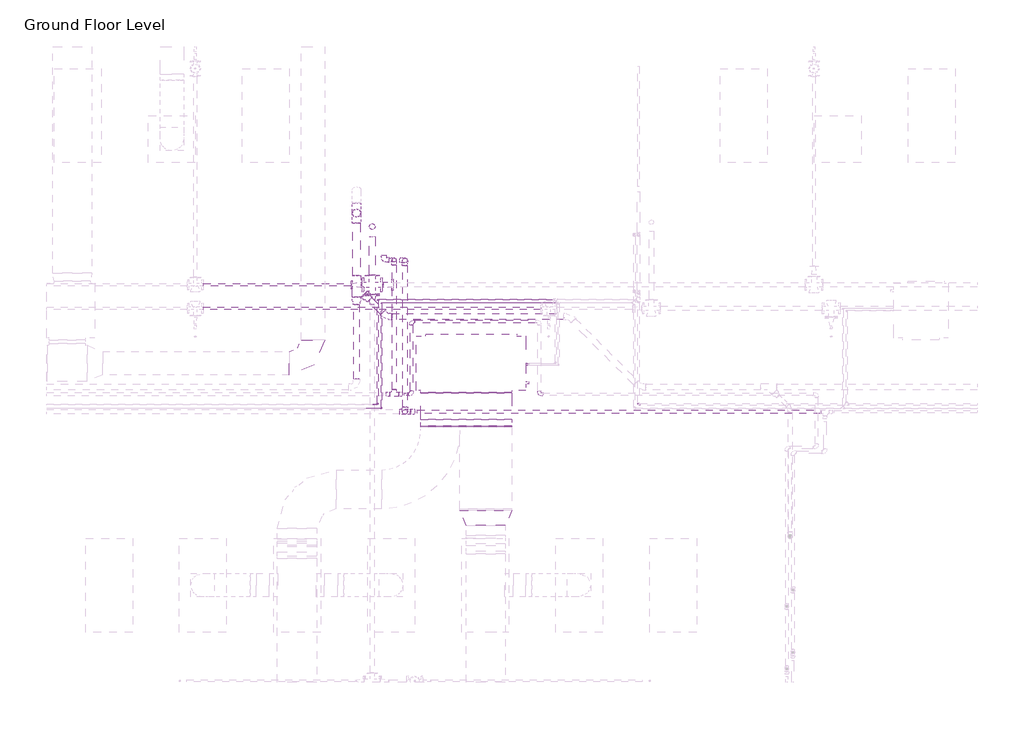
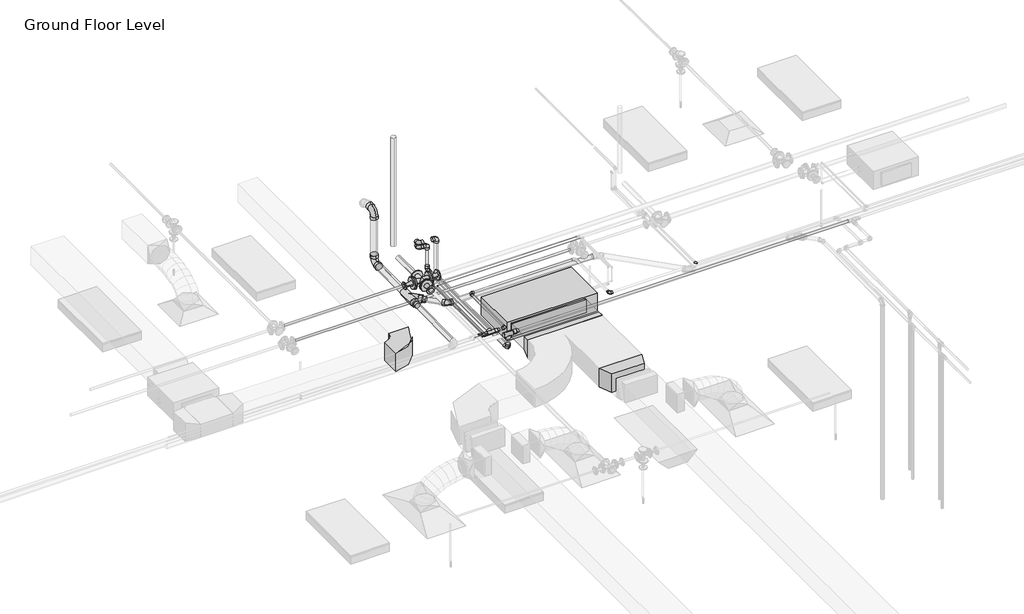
# One storey, part 52 of 73: 33 pipe fittings, 28 pipe segments, 4 duct fittings, 2 duct segments, 1 proxy.
"""IFC4 building model written with IfcOpenShell, lengths in millimetres."""

from ifc_helpers import new_model, si_unit, point, frame, frame_2d, origin, place, context, project, spatial, polyline, circle_curve, trimmed, segment, composite_curve, outline, extrude, transform, mapped, element, save
from components import fcu_daikin_iu_5a1bd61d, m_rectangular_elbow_radius_1_w_618da153, m_rectangular_transition_angle_45_degree_0ac038db, m_rectangular_transition_angle_45_degree_2e6f116c, m_rectangular_transition_angle_45_degree_bb273bf1, m_bend_pvc_sch_40_dwv_standard_bd716fa2, m_bend_pvc_sch_40_dwv_standard_fbb643c2, m_bend_pvc_sch_40_dwv_standard_bfb77a87, m_cross_flanged_cs_class_150_standard_72237f6b, m_elbow_generic_standard_a088f956, m_elbow_generic_standard_2a704253, m_elbow_generic_standard_73005802, m_elbow_generic_standard_65e6739a, m_reducer_flanged_cs_class_150_standard_50093ec8, m_reducer_flanged_cs_class_150_standard_fb6801e4, m_reducer_flanged_cs_class_150_standard_aac2962f, m_reducer_pvc_sch_40_dwv_standard_93e50943, m_tee_pvc_sch_40_standard_4c5b037c, standard_517a5a8d, standard_cd25fed3, standard_5079833c, standard_bbae78af, standard_a995ec02, standard_57727813, standard_77f9104c, standard_102e5625

model = new_model("IFC4")

# Units and contexts
model_context = context("Model", 3, world=origin())
ifc_project = project(units=[si_unit("LENGTHUNIT", "METRE", prefix="MILLI")], contexts=[model_context])

# Site, building, storey
site = spatial("IfcSite", under=ifc_project)
building = spatial("IfcBuilding", under=site)
storey = spatial("IfcBuildingStorey", under=building, Name="Ground Floor Level", Elevation=900.0)

# Proxy
placement = place(None, origin())
fcu_daikin_iu_shape = fcu_daikin_iu_5a1bd61d(model_context)
element("IfcBuildingElementProxy", 1, Name="FCU-DAIKIN IU : 12.9kW, 230V/50Hz/1Ph", ObjectType="FCU-DAIKIN IU : 12.9kW, 230V/50Hz/1Ph", at=placement, inside=storey, context=model_context, shape_type="MappedRepresentation", body=[
    mapped(fcu_daikin_iu_shape, transform((-4715.1910789, 14069.8153534, 3984.0925223), x_axis=(1.0, 0.0, 0.0), y_axis=(0.0, 1.0, 0.0), z_axis=(0.0, 0.0, 1.0))),
])

# Duct fittings
m_rectangular_elbow_radius_1_w_shape = m_rectangular_elbow_radius_1_w_618da153(model_context)
element("IfcDuctFitting", 2, ObjectType="M_Rectangular Elbow - Radius : 1 W", at=placement, inside=storey, context=model_context, shape_type="MappedRepresentation", body=[
    mapped(m_rectangular_elbow_radius_1_w_shape, transform((-6737.2327605, 14069.8153534, 4075.2872564), x_axis=(1.0, 0.0, 0.0), y_axis=(0.0, 1.0, 0.0), z_axis=(0.0, 0.0, 1.0))),
])
m_rectangular_transition_angle_45_degree_shape = m_rectangular_transition_angle_45_degree_0ac038db(model_context)
element("IfcDuctFitting", 3, ObjectType="M_Rectangular Transition - Angle : 45 Degree", at=placement, inside=storey, context=model_context, shape_type="MappedRepresentation", body=[
    mapped(m_rectangular_transition_angle_45_degree_shape, transform((-4528.6910789, 12192.414605, 4107.133239), x_axis=(0.0, -0.9999999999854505, 5.394345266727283e-06), y_axis=(1.0, 0.0, 0.0), z_axis=(0.0, 5.394345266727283e-06, 0.9999999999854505))),
])
m_rectangular_transition_angle_45_degree_2_shape = m_rectangular_transition_angle_45_degree_2e6f116c(model_context)
element("IfcDuctFitting", 4, ObjectType="M_Rectangular Transition - Angle : 45 Degree", at=placement, inside=storey, context=model_context, shape_type="MappedRepresentation", body=[
    mapped(m_rectangular_transition_angle_45_degree_2_shape, transform((-4778.6910789, 13694.4153534, 4150.0050223), x_axis=(0.0, -1.0, 0.0), y_axis=(1.0, 0.0, 0.0), z_axis=(0.0, 0.0, 1.0))),
])
m_rectangular_transition_angle_45_degree_3_shape = m_rectangular_transition_angle_45_degree_bb273bf1(model_context)
element("IfcDuctFitting", 5, ObjectType="M_Rectangular Transition - Angle : 45 Degree", at=placement, inside=storey, context=model_context, shape_type="MappedRepresentation", body=[
    mapped(m_rectangular_transition_angle_45_degree_3_shape, transform((-4778.6910789, 13354.5699657, 4150.0028095), x_axis=(0.0, -0.9999999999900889, -4.452214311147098e-06), y_axis=(1.0, 0.0, 0.0), z_axis=(0.0, -4.452214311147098e-06, 0.9999999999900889))),
])

# Duct segments
element("IfcDuctSegment", 6, ObjectType="Radius Elbows / Taps", at=placement, inside=storey, context=model_context, shape_type="SweptSolid", body=[
    extrude(outline(polyline([(-5359.6910789, 13694.083399), (-4197.6910789, 13694.083399), (-4197.6910789, 13354.5699657), (-5359.6910789, 13354.5699657), (-5359.6910789, 13694.083399)])), frame((0.0, 0.0, 4043.0050223), z_axis=(0.0, 0.0, 1.0), x_axis=(1.0, 0.0, 0.0)), (0.0, 0.0, 1.0), 214.0),
])
element("IfcDuctSegment", 7, ObjectType="Radius Elbows / Taps", at=placement, inside=storey, context=model_context, shape_type="SweptSolid", body=[
    extrude(outline(polyline([(0.0, -1162.0), (0.0, 0.0), (9.0109299, 0.0), (9.0109299, -1162.0), (0.0, -1162.0)])), frame((-5359.6910789, 13259.4862791, 3957.1425391), z_axis=(0.0, -0.00047283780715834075, 0.9999998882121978), x_axis=(0.0, 0.9999998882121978, 0.00047283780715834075)), (0.0, 0.0, 1.0), 300.0),
])

# Pipe fittings
m_bend_pvc_sch_40_dwv_standard_shape = m_bend_pvc_sch_40_dwv_standard_bd716fa2(model_context)
element("IfcPipeFitting", 8, ObjectType="M_Bend - PVC - Sch 40 - DWV : Standard", at=placement, inside=storey, context=model_context, shape_type="MappedRepresentation", body=[
    mapped(m_bend_pvc_sch_40_dwv_standard_shape, transform((-6179.1770144, 15988.8715849, 4179.1289206), x_axis=(0.0, 0.9999500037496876, 0.009999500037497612), y_axis=(0.0, -0.009999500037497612, 0.9999500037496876), z_axis=(1.0, 0.0, 0.0))),
])
m_bend_pvc_sch_40_dwv_standard_2_shape = m_bend_pvc_sch_40_dwv_standard_fbb643c2(model_context)
element("IfcPipeFitting", 9, ObjectType="M_Bend - PVC - Sch 40 - DWV : Standard", at=placement, inside=storey, context=model_context, shape_type="MappedRepresentation", body=[
    mapped(m_bend_pvc_sch_40_dwv_standard_2_shape, transform((-5796.171114, 14668.7334723, 4163.0722858), x_axis=(0.7069124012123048, -0.7071711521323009, -0.013557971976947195), y_axis=(0.7072304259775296, 0.7069828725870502, -0.0005851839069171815), z_axis=(0.009999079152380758, -0.00917493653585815, 0.999907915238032))),
])
m_bend_pvc_sch_40_dwv_standard_3_shape = m_bend_pvc_sch_40_dwv_standard_bfb77a87(model_context)
element("IfcPipeFitting", 10, ObjectType="M_Bend - PVC - Sch 40 - DWV : Standard", at=placement, inside=storey, context=model_context, shape_type="MappedRepresentation", body=[
    mapped(m_bend_pvc_sch_40_dwv_standard_3_shape, transform((-6179.1776394, 15988.874234, 5027.5258857), x_axis=(-4.882554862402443e-06, 2.069385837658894e-05, 0.9999999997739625), y_axis=(4.892659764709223e-08, 0.9999999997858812, -2.0693858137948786e-05), z_axis=(-0.9999999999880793, 4.8825558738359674e-08, -4.882555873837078e-06))),
])
m_cross_flanged_cs_class_150_standard_shape = m_cross_flanged_cs_class_150_standard_72237f6b(model_context)
element("IfcPipeFitting", 11, ObjectType="M_Cross - Flanged - CS - Class 150 : Standard", at=placement, inside=storey, context=model_context, shape_type="MappedRepresentation", body=[
    mapped(m_cross_flanged_cs_class_150_standard_shape, transform((-5978.130502, 15073.2009828, 4360.0), x_axis=(-1.0, 0.0, 0.0), y_axis=(0.0, -1.0, 0.0), z_axis=(0.0, 0.0, 1.0))),
])
m_elbow_generic_standard_shape = m_elbow_generic_standard_a088f956(model_context)
element("IfcPipeFitting", 12, ObjectType="M_Elbow - Generic : Standard", at=placement, inside=storey, context=model_context, shape_type="MappedRepresentation", body=[
    mapped(m_elbow_generic_standard_shape, transform((-5907.05663, 14885.6024145, 4380.0), x_axis=(-1.0, 0.0, 0.0), y_axis=(0.0, -1.0, 0.0), z_axis=(0.0, 0.0, 1.0))),
])
element("IfcPipeFitting", 13, ObjectType="M_Elbow - Generic : Standard", at=placement, inside=storey, context=model_context, shape_type="MappedRepresentation", body=[
    mapped(m_elbow_generic_standard_shape, transform((-5907.05663, 13545.2153534, 4380.0), x_axis=(1.0, 0.0, 0.0), y_axis=(0.0, 1.0, 0.0), z_axis=(0.0, 0.0, 1.0))),
])
m_elbow_generic_standard_2_shape = m_elbow_generic_standard_2a704253(model_context)
element("IfcPipeFitting", 14, ObjectType="M_Elbow - Generic : Standard", at=placement, inside=storey, context=model_context, shape_type="MappedRepresentation", body=[
    mapped(m_elbow_generic_standard_2_shape, transform((-5859.8931643, 14844.4055749, 4365.0), x_axis=(-1.0, 0.0, 0.0), y_axis=(0.0, -1.0, 0.0), z_axis=(0.0, 0.0, 1.0))),
])
element("IfcPipeFitting", 15, ObjectType="M_Elbow - Generic : Standard", at=placement, inside=storey, context=model_context, shape_type="MappedRepresentation", body=[
    mapped(m_elbow_generic_standard_2_shape, transform((-5859.8931643, 13494.0185138, 4393.0), x_axis=(1.0, 0.0, 0.0), y_axis=(0.0, 0.0, -1.0), z_axis=(0.0, 1.0, 0.0))),
])
element("IfcPipeFitting", 16, ObjectType="M_Elbow - Generic : Standard", at=placement, inside=storey, context=model_context, shape_type="MappedRepresentation", body=[
    mapped(m_elbow_generic_standard_2_shape, transform((-5859.8931643, 13494.0185138, 4365.0), x_axis=(0.0, -1.0, 0.0), y_axis=(0.0, 0.0, 1.0), z_axis=(-1.0, 0.0, 0.0))),
])
m_elbow_generic_standard_3_shape = m_elbow_generic_standard_73005802(model_context)
element("IfcPipeFitting", 17, ObjectType="M_Elbow - Generic : Standard", at=placement, inside=storey, context=model_context, shape_type="MappedRepresentation", body=[
    mapped(m_elbow_generic_standard_3_shape, transform((-2579.6952605, 13545.2153534, 4380.0), x_axis=(0.0, -1.0, 0.0), y_axis=(1.0, 0.0, 0.0), z_axis=(0.0, 0.0, 1.0))),
])
m_elbow_generic_standard_4_shape = m_elbow_generic_standard_65e6739a(model_context)
element("IfcPipeFitting", 18, ObjectType="M_Elbow - Generic : Standard", at=placement, inside=storey, context=model_context, shape_type="MappedRepresentation", body=[
    mapped(m_elbow_generic_standard_4_shape, transform((-5961.4046602, 13545.2153534, 4392.0), x_axis=(1.0, 0.0, 0.0), y_axis=(0.0, 0.0, -1.0), z_axis=(0.0, 1.0, 0.0))),
])
element("IfcPipeFitting", 19, ObjectType="M_Elbow - Generic : Standard", at=placement, inside=storey, context=model_context, shape_type="MappedRepresentation", body=[
    mapped(m_elbow_generic_standard_4_shape, transform((-5949.4046602, 13545.2153534, 4380.0), x_axis=(0.7071067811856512, 0.0, -0.7071067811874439), y_axis=(0.7071067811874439, 0.0, 0.7071067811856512), z_axis=(0.0, -1.0, 0.0))),
])
m_reducer_flanged_cs_class_150_standard_shape = m_reducer_flanged_cs_class_150_standard_50093ec8(model_context)
element("IfcPipeFitting", 20, ObjectType="M_Reducer - Flanged - CS - Class 150 : Standard", at=placement, inside=storey, context=model_context, shape_type="MappedRepresentation", body=[
    mapped(m_reducer_flanged_cs_class_150_standard_shape, transform((-5851.130502, 15073.2009828, 4360.0), x_axis=(1.0, 0.0, 0.0), y_axis=(0.0, 1.0, 0.0), z_axis=(0.0, 0.0, 1.0))),
])
m_reducer_flanged_cs_class_150_standard_2_shape = m_reducer_flanged_cs_class_150_standard_fb6801e4(model_context)
element("IfcPipeFitting", 21, ObjectType="M_Reducer - Flanged - CS - Class 150 : Standard", at=placement, inside=storey, context=model_context, shape_type="MappedRepresentation", body=[
    mapped(m_reducer_flanged_cs_class_150_standard_2_shape, transform((-6105.130502, 15073.2009828, 4360.0), x_axis=(-1.0, 0.0, 0.0), y_axis=(0.0, -1.0, 0.0), z_axis=(0.0, 0.0, 1.0))),
])
m_reducer_flanged_cs_class_150_standard_3_shape = m_reducer_flanged_cs_class_150_standard_aac2962f(model_context)
element("IfcPipeFitting", 22, ObjectType="M_Reducer - Flanged - CS - Class 150 : Standard", at=placement, inside=storey, context=model_context, shape_type="MappedRepresentation", body=[
    mapped(m_reducer_flanged_cs_class_150_standard_3_shape, transform((-5978.130502, 14946.2009828, 4360.0), x_axis=(0.0, -1.0, 0.0), y_axis=(1.0, 0.0, 0.0), z_axis=(0.0, 0.0, 1.0))),
])
m_reducer_pvc_sch_40_dwv_standard_shape = m_reducer_pvc_sch_40_dwv_standard_93e50943(model_context)
element("IfcPipeFitting", 23, ObjectType="M_Reducer - PVC - Sch 40 - DWV : Standard", at=placement, inside=storey, context=model_context, shape_type="MappedRepresentation", body=[
    mapped(m_reducer_pvc_sch_40_dwv_standard_shape, transform((-6179.1770144, 14819.9179815, 4167.4393846), x_axis=(0.0, 0.9999500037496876, 0.009999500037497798), y_axis=(-1.0000000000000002, 0.0, 0.0), z_axis=(0.0, -0.009999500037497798, 0.9999500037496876))),
])
element("IfcPipeFitting", 24, ObjectType="M_Reducer - PVC - Sch 40 - DWV : Standard", at=placement, inside=storey, context=model_context, shape_type="MappedRepresentation", body=[
    mapped(m_reducer_pvc_sch_40_dwv_standard_shape, transform((-6010.7168995, 14883.3577879, 4167.1870895), x_axis=(-0.7069124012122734, 0.7071711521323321, 0.01355797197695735), y_axis=(-0.7072361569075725, -0.7069773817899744, -2.1519182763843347e-08), z_axis=(0.00958516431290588, -0.009588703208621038, 0.9999080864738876))),
])
m_tee_pvc_sch_40_standard_shape = m_tee_pvc_sch_40_standard_4c5b037c(model_context)
element("IfcPipeFitting", 25, ObjectType="M_Tee - PVC - Sch 40 : Standard", at=placement, inside=storey, context=model_context, shape_type="MappedRepresentation", body=[
    mapped(m_tee_pvc_sch_40_standard_shape, transform((-6179.1770144, 15051.7796868, 4169.7580016), x_axis=(0.0, 0.9999500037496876, 0.009999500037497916), y_axis=(-0.9999972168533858, -2.3591797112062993e-05, 0.0023591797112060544), z_axis=(0.0023592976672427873, -0.009999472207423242, 0.9999472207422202))),
])
standard_shape = standard_517a5a8d(model_context)
element("IfcPipeFitting", 26, ObjectType="M_Elbow - CPVC - Sch 40 : Standard", at=placement, inside=storey, context=model_context, shape_type="MappedRepresentation", body=[
    mapped(standard_shape, transform((-5476.1871015, 13675.2153534, 4250.0), x_axis=(1.0, 0.0, 0.0), y_axis=(0.0, 1.0, 0.0), z_axis=(0.0, 0.0, 1.0))),
])
element("IfcPipeFitting", 27, ObjectType="M_Elbow - CPVC - Sch 40 : Standard", at=placement, inside=storey, context=model_context, shape_type="MappedRepresentation", body=[
    mapped(standard_shape, transform((-5476.1871015, 14603.43487, 4250.0), x_axis=(-1.0, 0.0, 0.0), y_axis=(0.0, -1.0, 0.0), z_axis=(0.0, 0.0, 1.0))),
])
element("IfcPipeFitting", 28, ObjectType="M_Elbow - CPVC - Sch 40 : Standard", at=placement, inside=storey, context=model_context, shape_type="MappedRepresentation", body=[
    mapped(standard_shape, transform((-3846.4489567, 13675.2153534, 4250.0), x_axis=(0.0, -1.0, 0.0), y_axis=(1.0, 0.0, 0.0), z_axis=(0.0, 0.0, 1.0))),
])
standard_2_shape = standard_cd25fed3(model_context)
element("IfcPipeFitting", 29, ObjectType="M_Tee - CPVC - Sch 40 : Standard", at=placement, inside=storey, context=model_context, shape_type="MappedRepresentation", body=[
    mapped(standard_2_shape, transform((-5560.8713756, 13449.9865561, 4315.0), x_axis=(1.0, 0.0, 0.0), y_axis=(0.0, 0.0, 1.0), z_axis=(0.0, -1.0, 0.0))),
])
standard_3_shape = standard_5079833c(model_context)
element("IfcPipeFitting", 30, ObjectType="M_Coupling Reducing - CPVC - Sch 40 : Standard", at=placement, inside=storey, context=model_context, shape_type="MappedRepresentation", body=[
    mapped(standard_3_shape, transform((-5486.9943636, 13449.9865561, 4315.0), x_axis=(1.0, 0.0, 0.0), y_axis=(0.0, 1.0, 0.0), z_axis=(0.0, 0.0, 1.0))),
])
standard_4_shape = standard_bbae78af(model_context)
element("IfcPipeFitting", 31, ObjectType="M_Tee - CPVC - Sch 40 : Standard", at=placement, inside=storey, context=model_context, shape_type="MappedRepresentation", body=[
    mapped(standard_4_shape, transform((-5698.3060147, 13675.2153534, 4250.0), x_axis=(1.0, 0.0, 0.0), y_axis=(0.0, -1.0, 0.0), z_axis=(0.0, 0.0, -1.0))),
])
standard_5_shape = standard_a995ec02(model_context)
element("IfcPipeFitting", 32, ObjectType="M_Coupling Reducing - CPVC - Sch 40 : Standard", at=placement, inside=storey, context=model_context, shape_type="MappedRepresentation", body=[
    mapped(standard_5_shape, transform((-5757.0562147, 13675.2153534, 4250.0), x_axis=(-1.0, 0.0, 0.0), y_axis=(0.0, -1.0, 0.0), z_axis=(0.0, 0.0, 1.0))),
])
standard_6_shape = standard_57727813(model_context)
element("IfcPipeFitting", 33, ObjectType="M_Elbow - CPVC - Sch 40 : Standard", at=placement, inside=storey, context=model_context, shape_type="MappedRepresentation", body=[
    mapped(standard_6_shape, transform((-5560.8713756, 15385.5016509, 4719.8375), x_axis=(0.0, 0.0, 1.0), y_axis=(-0.997564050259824, 0.06975647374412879, 0.0), z_axis=(-0.06975647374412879, -0.997564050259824, 0.0))),
])
element("IfcPipeFitting", 34, ObjectType="M_Elbow - CPVC - Sch 40 : Standard", at=placement, inside=storey, context=model_context, shape_type="MappedRepresentation", body=[
    mapped(standard_6_shape, transform((-5831.0029399, 15389.9865561, 4719.8375), x_axis=(0.0, -1.0, 0.0), y_axis=(1.0, 0.0, 0.0), z_axis=(0.0, 0.0, 1.0))),
])
element("IfcPipeFitting", 35, ObjectType="M_Elbow - CPVC - Sch 40 : Standard", at=placement, inside=storey, context=model_context, shape_type="MappedRepresentation", body=[
    mapped(standard_6_shape, transform((-5560.8713756, 15385.5016509, 4090.0), x_axis=(0.0, 0.0, -1.0), y_axis=(0.0, -1.0, 0.0), z_axis=(-1.0, 0.0, 0.0))),
])
element("IfcPipeFitting", 36, ObjectType="M_Elbow - CPVC - Sch 40 : Standard", at=placement, inside=storey, context=model_context, shape_type="MappedRepresentation", body=[
    mapped(standard_6_shape, transform((-5560.8713756, 13449.9865561, 4090.0), x_axis=(0.0, 0.0, -1.0), y_axis=(0.0, 1.0, 0.0), z_axis=(1.0, 0.0, 0.0))),
])
standard_7_shape = standard_77f9104c(model_context)
element("IfcPipeFitting", 37, ObjectType="M_Coupling Reducing - CPVC - Sch 40 : Standard", at=placement, inside=storey, context=model_context, shape_type="MappedRepresentation", body=[
    mapped(standard_7_shape, transform((-5639.5558147, 13675.2153534, 4250.0), x_axis=(1.0, 0.0, 0.0), y_axis=(0.0, 1.0, 0.0), z_axis=(0.0, 0.0, 1.0))),
])
standard_8_shape = standard_102e5625(model_context)
element("IfcPipeFitting", 38, ObjectType="M_Elbow - CPVC - Sch 40 : Standard", at=placement, inside=storey, context=model_context, shape_type="MappedRepresentation", body=[
    mapped(standard_8_shape, transform((-5698.3060147, 15389.9865561, 4250.0), x_axis=(0.0, 1.0, 0.0), y_axis=(0.0, 0.0, 1.0), z_axis=(1.0, 0.0, 0.0))),
])
element("IfcPipeFitting", 39, ObjectType="M_Elbow - CPVC - Sch 40 : Standard", at=placement, inside=storey, context=model_context, shape_type="MappedRepresentation", body=[
    mapped(standard_8_shape, transform((-5698.3060147, 15389.9865561, 4650.0), x_axis=(0.0, 0.0, 1.0), y_axis=(-1.0, 0.0, 0.0), z_axis=(0.0, -1.0, 0.0))),
])
element("IfcPipeFitting", 40, ObjectType="M_Elbow - CPVC - Sch 40 : Standard", at=placement, inside=storey, context=model_context, shape_type="MappedRepresentation", body=[
    mapped(standard_8_shape, transform((-5831.0029399, 15389.9865561, 4650.0), x_axis=(0.0, -1.0, 0.0), y_axis=(1.0, 0.0, 0.0), z_axis=(0.0, 0.0, 1.0))),
])

# Pipe segments
element("IfcPipeSegment", 41, ObjectType="CPVC", at=placement, inside=storey, context=model_context, shape_type="SweptSolid", body=[
    extrude(outline(composite_curve([segment(trimmed(circle_curve(frame_2d((13449.9865561, 4315.0)), 30.1625), [point((13419.8240561, 4315.0))], [point((13449.9865561, 4345.1625))], False, "CARTESIAN"), True, "CONTINUOUS"), segment(trimmed(circle_curve(frame_2d((13449.9865561, 4315.0)), 30.1625), [point((13449.9865561, 4345.1625))], [point((13480.1490561, 4315.0))], False, "CARTESIAN"), True, "CONTINUOUS"), segment(trimmed(circle_curve(frame_2d((13449.9865561, 4315.0)), 30.1625), [point((13480.1490561, 4315.0))], [point((13449.9865561, 4284.8375))], False, "CARTESIAN"), True, "CONTINUOUS"), segment(trimmed(circle_curve(frame_2d((13449.9865561, 4315.0)), 30.1625), [point((13449.9865561, 4284.8375))], [point((13419.8240561, 4315.0))], False, "CARTESIAN"), True, "CONTINUOUS")], self_intersect=False)), frame((-5494.1963756, 0.0, 0.0), z_axis=(1.0, 0.0, 0.0), x_axis=(0.0, 1.0, 0.0)), (0.0, 0.0, 1.0), 7.202012),
])
element("IfcPipeSegment", 42, ObjectType="CPVC", at=placement, inside=storey, context=model_context, shape_type="SweptSolid", body=[
    extrude(outline(composite_curve([segment(trimmed(circle_curve(frame_2d((4090.0, -5560.8713756)), 30.1625), [point((4090.0, -5591.0338756))], [point((4059.8375, -5560.8713756))], False, "CARTESIAN"), True, "CONTINUOUS"), segment(trimmed(circle_curve(frame_2d((4090.0, -5560.8713756)), 30.1625), [point((4059.8375, -5560.8713756))], [point((4090.0, -5530.7088756))], False, "CARTESIAN"), True, "CONTINUOUS"), segment(trimmed(circle_curve(frame_2d((4090.0, -5560.8713756)), 30.1625), [point((4090.0, -5530.7088756))], [point((4120.1625, -5560.8713756))], False, "CARTESIAN"), True, "CONTINUOUS"), segment(trimmed(circle_curve(frame_2d((4090.0, -5560.8713756)), 30.1625), [point((4120.1625, -5560.8713756))], [point((4090.0, -5591.0338756))], False, "CARTESIAN"), True, "CONTINUOUS")], self_intersect=False)), frame((0.0, 13514.2803061, 0.0), z_axis=(0.0, 1.0, 0.0), x_axis=(0.0, 0.0, 1.0)), (0.0, 0.0, 1.0), 1806.9275947),
])
element("IfcPipeSegment", 43, ObjectType="CPVC", at=placement, inside=storey, context=model_context, shape_type="SweptSolid", body=[
    extrude(outline(composite_curve([segment(trimmed(circle_curve(frame_2d((4250.0, -5698.3060147)), 24.13), [point((4250.0, -5674.1760147))], [point((4274.13, -5698.3060147))], False, "CARTESIAN"), True, "CONTINUOUS"), segment(trimmed(circle_curve(frame_2d((4250.0, -5698.3060147)), 24.13), [point((4274.13, -5698.3060147))], [point((4250.0, -5722.4360147))], False, "CARTESIAN"), True, "CONTINUOUS"), segment(trimmed(circle_curve(frame_2d((4250.0, -5698.3060147)), 24.13), [point((4250.0, -5722.4360147))], [point((4225.87, -5698.3060147))], False, "CARTESIAN"), True, "CONTINUOUS"), segment(trimmed(circle_curve(frame_2d((4250.0, -5698.3060147)), 24.13), [point((4225.87, -5698.3060147))], [point((4250.0, -5674.1760147))], False, "CARTESIAN"), True, "CONTINUOUS")], self_intersect=False)), frame((0.0, 13733.9655534, 0.0), z_axis=(0.0, 1.0, 0.0), x_axis=(0.0, 0.0, 1.0)), (0.0, 0.0, 1.0), 1593.3020527),
])
element("IfcPipeSegment", 44, ObjectType="CPVC", at=placement, inside=storey, context=model_context, shape_type="SweptSolid", body=[
    extrude(outline(composite_curve([segment(trimmed(circle_curve(frame_2d((13449.9865561, 4315.0)), 21.082), [point((13471.0685561, 4315.0))], [point((13449.9865561, 4293.918))], False, "CARTESIAN"), True, "CONTINUOUS"), segment(trimmed(circle_curve(frame_2d((13449.9865561, 4315.0)), 21.082), [point((13449.9865561, 4293.918))], [point((13428.9045561, 4315.0))], False, "CARTESIAN"), True, "CONTINUOUS"), segment(trimmed(circle_curve(frame_2d((13449.9865561, 4315.0)), 21.082), [point((13428.9045561, 4315.0))], [point((13449.9865561, 4336.082))], False, "CARTESIAN"), True, "CONTINUOUS"), segment(trimmed(circle_curve(frame_2d((13449.9865561, 4315.0)), 21.082), [point((13449.9865561, 4336.082))], [point((13471.0685561, 4315.0))], False, "CARTESIAN"), True, "CONTINUOUS")], self_intersect=False)), frame((-5401.6556136, 0.0, 0.0), z_axis=(1.0, 0.0, 0.0), x_axis=(0.0, 1.0, 0.0)), (0.0, 0.0, 1.0), 5150.4478531),
])
element("IfcPipeSegment", 45, ObjectType="CPVC", at=placement, inside=storey, context=model_context, shape_type="SweptSolid", body=[
    extrude(outline(composite_curve([segment(trimmed(circle_curve(frame_2d((-5698.3060147, 15389.9865561)), 24.13), [point((-5722.4360147, 15389.9865561))], [point((-5698.3060147, 15414.1165561))], False, "CARTESIAN"), True, "CONTINUOUS"), segment(trimmed(circle_curve(frame_2d((-5698.3060147, 15389.9865561)), 24.13), [point((-5698.3060147, 15414.1165561))], [point((-5674.1760147, 15389.9865561))], False, "CARTESIAN"), True, "CONTINUOUS"), segment(trimmed(circle_curve(frame_2d((-5698.3060147, 15389.9865561)), 24.13), [point((-5674.1760147, 15389.9865561))], [point((-5698.3060147, 15365.8565561))], False, "CARTESIAN"), True, "CONTINUOUS"), segment(trimmed(circle_curve(frame_2d((-5698.3060147, 15389.9865561)), 24.13), [point((-5698.3060147, 15365.8565561))], [point((-5722.4360147, 15389.9865561))], False, "CARTESIAN"), True, "CONTINUOUS")], self_intersect=False)), frame((0.0, 0.0, 4312.71895), z_axis=(0.0, 0.0, 1.0), x_axis=(1.0, 0.0, 0.0)), (0.0, 0.0, 1.0), 274.5621),
])
element("IfcPipeSegment", 46, ObjectType="CPVC", at=placement, inside=storey, context=model_context, shape_type="SweptSolid", body=[
    extrude(outline(composite_curve([segment(trimmed(circle_curve(frame_2d((-5560.8713756, 15385.5016509)), 30.1625), [point((-5591.0338756, 15385.5016509))], [point((-5560.8713756, 15415.6641509))], False, "CARTESIAN"), True, "CONTINUOUS"), segment(trimmed(circle_curve(frame_2d((-5560.8713756, 15385.5016509)), 30.1625), [point((-5560.8713756, 15415.6641509))], [point((-5530.7088756, 15385.5016509))], False, "CARTESIAN"), True, "CONTINUOUS"), segment(trimmed(circle_curve(frame_2d((-5560.8713756, 15385.5016509)), 30.1625), [point((-5530.7088756, 15385.5016509))], [point((-5560.8713756, 15355.3391509))], False, "CARTESIAN"), True, "CONTINUOUS"), segment(trimmed(circle_curve(frame_2d((-5560.8713756, 15385.5016509)), 30.1625), [point((-5560.8713756, 15355.3391509))], [point((-5591.0338756, 15385.5016509))], False, "CARTESIAN"), True, "CONTINUOUS")], self_intersect=False)), frame((0.0, 0.0, 4154.29375), z_axis=(0.0, 0.0, 1.0), x_axis=(1.0, 0.0, 0.0)), (0.0, 0.0, 1.0), 501.25),
])
element("IfcPipeSegment", 47, ObjectType="CPVC", at=placement, inside=storey, context=model_context, shape_type="SweptSolid", body=[
    extrude(outline(composite_curve([segment(trimmed(circle_curve(frame_2d((13675.2153534, 4250.0)), 16.7005), [point((13658.5148534, 4250.0))], [point((13675.2153534, 4266.7005))], False, "CARTESIAN"), True, "CONTINUOUS"), segment(trimmed(circle_curve(frame_2d((13675.2153534, 4250.0)), 16.7005), [point((13675.2153534, 4266.7005))], [point((13691.9158534, 4250.0))], False, "CARTESIAN"), True, "CONTINUOUS"), segment(trimmed(circle_curve(frame_2d((13675.2153534, 4250.0)), 16.7005), [point((13691.9158534, 4250.0))], [point((13675.2153534, 4233.2995))], False, "CARTESIAN"), True, "CONTINUOUS"), segment(trimmed(circle_curve(frame_2d((13675.2153534, 4250.0)), 16.7005), [point((13675.2153534, 4233.2995))], [point((13658.5148534, 4250.0))], False, "CARTESIAN"), True, "CONTINUOUS")], self_intersect=False)), frame((-5567.3569397, 0.0, 0.0), z_axis=(1.0, 0.0, 0.0), x_axis=(0.0, 1.0, 0.0)), (0.0, 0.0, 1.0), 47.9072882),
])
element("IfcPipeSegment", 48, ObjectType="CPVC", at=placement, inside=storey, context=model_context, shape_type="SweptSolid", body=[
    extrude(outline(composite_curve([segment(trimmed(circle_curve(frame_2d((4250.0, -5476.1871015)), 16.7005), [point((4250.0, -5459.4866015))], [point((4266.7005, -5476.1871015))], False, "CARTESIAN"), True, "CONTINUOUS"), segment(trimmed(circle_curve(frame_2d((4250.0, -5476.1871015)), 16.7005), [point((4266.7005, -5476.1871015))], [point((4250.0, -5492.8876015))], False, "CARTESIAN"), True, "CONTINUOUS"), segment(trimmed(circle_curve(frame_2d((4250.0, -5476.1871015)), 16.7005), [point((4250.0, -5492.8876015))], [point((4233.2995, -5476.1871015))], False, "CARTESIAN"), True, "CONTINUOUS"), segment(trimmed(circle_curve(frame_2d((4250.0, -5476.1871015)), 16.7005), [point((4233.2995, -5476.1871015))], [point((4250.0, -5459.4866015))], False, "CARTESIAN"), True, "CONTINUOUS")], self_intersect=False)), frame((0.0, 13718.4779034, 0.0), z_axis=(0.0, 1.0, 0.0), x_axis=(0.0, 0.0, 1.0)), (0.0, 0.0, 1.0), 841.6944166),
])
element("IfcPipeSegment", 49, ObjectType="CPVC", at=placement, inside=storey, context=model_context, shape_type="SweptSolid", body=[
    extrude(outline(composite_curve([segment(trimmed(circle_curve(frame_2d((14603.43487, 4250.0)), 16.7005), [point((14620.13537, 4250.0))], [point((14603.43487, 4233.2995))], False, "CARTESIAN"), True, "CONTINUOUS"), segment(trimmed(circle_curve(frame_2d((14603.43487, 4250.0)), 16.7005), [point((14603.43487, 4233.2995))], [point((14586.73437, 4250.0))], False, "CARTESIAN"), True, "CONTINUOUS"), segment(trimmed(circle_curve(frame_2d((14603.43487, 4250.0)), 16.7005), [point((14586.73437, 4250.0))], [point((14603.43487, 4266.7005))], False, "CARTESIAN"), True, "CONTINUOUS"), segment(trimmed(circle_curve(frame_2d((14603.43487, 4250.0)), 16.7005), [point((14603.43487, 4266.7005))], [point((14620.13537, 4250.0))], False, "CARTESIAN"), True, "CONTINUOUS")], self_intersect=False)), frame((-5432.9245515, 0.0, 0.0), z_axis=(1.0, 0.0, 0.0), x_axis=(0.0, 1.0, 0.0)), (0.0, 0.0, 1.0), 1543.2130448),
])
element("IfcPipeSegment", 50, ObjectType="CPVC", at=placement, inside=storey, context=model_context, shape_type="SweptSolid", body=[
    extrude(outline(composite_curve([segment(trimmed(circle_curve(frame_2d((-5560.8713756, 13449.9865561)), 30.1625), [point((-5530.7088756, 13449.9865561))], [point((-5560.8713756, 13419.8240561))], False, "CARTESIAN"), True, "CONTINUOUS"), segment(trimmed(circle_curve(frame_2d((-5560.8713756, 13449.9865561)), 30.1625), [point((-5560.8713756, 13419.8240561))], [point((-5591.0338756, 13449.9865561))], False, "CARTESIAN"), True, "CONTINUOUS"), segment(trimmed(circle_curve(frame_2d((-5560.8713756, 13449.9865561)), 30.1625), [point((-5591.0338756, 13449.9865561))], [point((-5560.8713756, 13480.1490561))], False, "CARTESIAN"), True, "CONTINUOUS"), segment(trimmed(circle_curve(frame_2d((-5560.8713756, 13449.9865561)), 30.1625), [point((-5560.8713756, 13480.1490561))], [point((-5530.7088756, 13449.9865561))], False, "CARTESIAN"), True, "CONTINUOUS")], self_intersect=False)), frame((0.0, 0.0, 4154.29375), z_axis=(0.0, 0.0, 1.0), x_axis=(1.0, 0.0, 0.0)), (0.0, 0.0, 1.0), 94.03125),
])
element("IfcPipeSegment", 51, ObjectType="Copper", at=placement, inside=storey, context=model_context, shape_type="SweptSolid", body=[
    extrude(outline(composite_curve([segment(trimmed(circle_curve(frame_2d((13494.0185138, 4393.0)), 3.35), [point((13490.6685138, 4393.0))], [point((13494.0185138, 4396.35))], False, "CARTESIAN"), True, "CONTINUOUS"), segment(trimmed(circle_curve(frame_2d((13494.0185138, 4393.0)), 3.35), [point((13494.0185138, 4396.35))], [point((13497.3685138, 4393.0))], False, "CARTESIAN"), True, "CONTINUOUS"), segment(trimmed(circle_curve(frame_2d((13494.0185138, 4393.0)), 3.35), [point((13497.3685138, 4393.0))], [point((13494.0185138, 4389.65))], False, "CARTESIAN"), True, "CONTINUOUS"), segment(trimmed(circle_curve(frame_2d((13494.0185138, 4393.0)), 3.35), [point((13494.0185138, 4389.65))], [point((13490.6685138, 4393.0))], False, "CARTESIAN"), True, "CONTINUOUS")], self_intersect=False)), frame((-6053.203103, 0.0, 0.0), z_axis=(1.0, 0.0, 0.0), x_axis=(0.0, 1.0, 0.0)), (0.0, 0.0, 1.0), 182.1724387),
])
element("IfcPipeSegment", 52, ObjectType="Copper", at=placement, inside=storey, context=model_context, shape_type="SweptSolid", body=[
    extrude(outline(composite_curve([segment(trimmed(circle_curve(frame_2d((4380.0, -5907.05663)), 6.5), [point((4380.0, -5900.55663))], [point((4386.5, -5907.05663))], False, "CARTESIAN"), True, "CONTINUOUS"), segment(trimmed(circle_curve(frame_2d((4380.0, -5907.05663)), 6.5), [point((4386.5, -5907.05663))], [point((4380.0, -5913.55663))], False, "CARTESIAN"), True, "CONTINUOUS"), segment(trimmed(circle_curve(frame_2d((4380.0, -5907.05663)), 6.5), [point((4380.0, -5913.55663))], [point((4373.5, -5907.05663))], False, "CARTESIAN"), True, "CONTINUOUS"), segment(trimmed(circle_curve(frame_2d((4380.0, -5907.05663)), 6.5), [point((4373.5, -5907.05663))], [point((4380.0, -5900.55663))], False, "CARTESIAN"), True, "CONTINUOUS")], self_intersect=False)), frame((0.0, 13559.5028534, 0.0), z_axis=(0.0, 1.0, 0.0), x_axis=(0.0, 0.0, 1.0)), (0.0, 0.0, 1.0), 1311.8120611),
])
element("IfcPipeSegment", 53, ObjectType="Copper", at=placement, inside=storey, context=model_context, shape_type="SweptSolid", body=[
    extrude(outline(composite_curve([segment(trimmed(circle_curve(frame_2d((4365.0, -5859.8931643)), 3.35), [point((4365.0, -5856.5431643))], [point((4368.35, -5859.8931643))], False, "CARTESIAN"), True, "CONTINUOUS"), segment(trimmed(circle_curve(frame_2d((4365.0, -5859.8931643)), 3.35), [point((4368.35, -5859.8931643))], [point((4365.0, -5863.2431643))], False, "CARTESIAN"), True, "CONTINUOUS"), segment(trimmed(circle_curve(frame_2d((4365.0, -5859.8931643)), 3.35), [point((4365.0, -5863.2431643))], [point((4361.65, -5859.8931643))], False, "CARTESIAN"), True, "CONTINUOUS"), segment(trimmed(circle_curve(frame_2d((4365.0, -5859.8931643)), 3.35), [point((4361.65, -5859.8931643))], [point((4365.0, -5856.5431643))], False, "CARTESIAN"), True, "CONTINUOUS")], self_intersect=False)), frame((0.0, 13505.1560138, 0.0), z_axis=(0.0, 1.0, 0.0), x_axis=(0.0, 0.0, 1.0)), (0.0, 0.0, 1.0), 1328.1120611),
])
element("IfcPipeSegment", 54, ObjectType="Copper", at=placement, inside=storey, context=model_context, shape_type="SweptSolid", body=[
    extrude(outline(composite_curve([segment(trimmed(circle_curve(frame_2d((14885.6024145, 4380.0)), 6.5), [point((14879.1024145, 4380.0))], [point((14885.6024145, 4386.5))], False, "CARTESIAN"), True, "CONTINUOUS"), segment(trimmed(circle_curve(frame_2d((14885.6024145, 4380.0)), 6.5), [point((14885.6024145, 4386.5))], [point((14892.1024145, 4380.0))], False, "CARTESIAN"), True, "CONTINUOUS"), segment(trimmed(circle_curve(frame_2d((14885.6024145, 4380.0)), 6.5), [point((14892.1024145, 4380.0))], [point((14885.6024145, 4373.5))], False, "CARTESIAN"), True, "CONTINUOUS"), segment(trimmed(circle_curve(frame_2d((14885.6024145, 4380.0)), 6.5), [point((14885.6024145, 4373.5))], [point((14879.1024145, 4380.0))], False, "CARTESIAN"), True, "CONTINUOUS")], self_intersect=False)), frame((-5892.76913, 0.0, 0.0), z_axis=(1.0, 0.0, 0.0), x_axis=(0.0, 1.0, 0.0)), (0.0, 0.0, 1.0), 2228.690551),
])
element("IfcPipeSegment", 55, ObjectType="Copper", at=placement, inside=storey, context=model_context, shape_type="SweptSolid", body=[
    extrude(outline(composite_curve([segment(trimmed(circle_curve(frame_2d((14844.4055749, 4365.0)), 3.35), [point((14847.7555749, 4365.0))], [point((14844.4055749, 4361.65))], False, "CARTESIAN"), True, "CONTINUOUS"), segment(trimmed(circle_curve(frame_2d((14844.4055749, 4365.0)), 3.35), [point((14844.4055749, 4361.65))], [point((14841.0555749, 4365.0))], False, "CARTESIAN"), True, "CONTINUOUS"), segment(trimmed(circle_curve(frame_2d((14844.4055749, 4365.0)), 3.35), [point((14841.0555749, 4365.0))], [point((14844.4055749, 4368.35))], False, "CARTESIAN"), True, "CONTINUOUS"), segment(trimmed(circle_curve(frame_2d((14844.4055749, 4365.0)), 3.35), [point((14844.4055749, 4368.35))], [point((14847.7555749, 4365.0))], False, "CARTESIAN"), True, "CONTINUOUS")], self_intersect=False)), frame((-5848.7556643, 0.0, 0.0), z_axis=(1.0, 0.0, 0.0), x_axis=(0.0, 1.0, 0.0)), (0.0, 0.0, 1.0), 2229.4583352),
])
element("IfcPipeSegment", 56, ObjectType="Copper", at=placement, inside=storey, context=model_context, shape_type="SweptSolid", body=[
    extrude(outline(composite_curve([segment(trimmed(circle_curve(frame_2d((-5859.8931643, 13494.0185138)), 3.35), [point((-5856.5431643, 13494.0185138))], [point((-5859.8931643, 13490.6685138))], False, "CARTESIAN"), True, "CONTINUOUS"), segment(trimmed(circle_curve(frame_2d((-5859.8931643, 13494.0185138)), 3.35), [point((-5859.8931643, 13490.6685138))], [point((-5863.2431643, 13494.0185138))], False, "CARTESIAN"), True, "CONTINUOUS"), segment(trimmed(circle_curve(frame_2d((-5859.8931643, 13494.0185138)), 3.35), [point((-5863.2431643, 13494.0185138))], [point((-5859.8931643, 13497.3685138))], False, "CARTESIAN"), True, "CONTINUOUS"), segment(trimmed(circle_curve(frame_2d((-5859.8931643, 13494.0185138)), 3.35), [point((-5859.8931643, 13497.3685138))], [point((-5856.5431643, 13494.0185138))], False, "CARTESIAN"), True, "CONTINUOUS")], self_intersect=False)), frame((0.0, 0.0, 4376.1375), z_axis=(0.0, 0.0, 1.0), x_axis=(1.0, 0.0, 0.0)), (0.0, 0.0, 1.0), 5.725),
])
element("IfcPipeSegment", 57, ObjectType="Copper", at=placement, inside=storey, context=model_context, shape_type="SweptSolid", body=[
    extrude(outline(composite_curve([segment(trimmed(circle_curve(frame_2d((0.0, -6.5)), 6.5), [point((0.0, -13.0))], [point((-6.5, -6.5))], False, "CARTESIAN"), True, "CONTINUOUS"), segment(trimmed(circle_curve(frame_2d((0.0, -6.5)), 6.5), [point((-6.5, -6.5))], [point((0.0, 0.0))], False, "CARTESIAN"), True, "CONTINUOUS"), segment(trimmed(circle_curve(frame_2d((0.0, -6.5)), 6.5), [point((0.0, 0.0))], [point((6.5, -6.5))], False, "CARTESIAN"), True, "CONTINUOUS"), segment(trimmed(circle_curve(frame_2d((0.0, -6.5)), 6.5), [point((6.5, -6.5))], [point((0.0, -13.0))], False, "CARTESIAN"), True, "CONTINUOUS")], self_intersect=False)), frame((-5953.5893721, 13551.7153534, 4384.1847119), z_axis=(-0.7071067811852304, 0.0, 0.7071067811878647), x_axis=(0.7071067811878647, 0.0, 0.7071067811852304)), (0.0, 0.0, 1.0), 5.1344102),
])
element("IfcPipeSegment", 58, ObjectType="Copper", at=placement, inside=storey, context=model_context, shape_type="SweptSolid", body=[
    extrude(outline(composite_curve([segment(trimmed(circle_curve(frame_2d((13545.2153534, 4380.0)), 6.5), [point((13551.7153534, 4380.0))], [point((13545.2153534, 4373.5))], False, "CARTESIAN"), True, "CONTINUOUS"), segment(trimmed(circle_curve(frame_2d((13545.2153534, 4380.0)), 6.5), [point((13545.2153534, 4373.5))], [point((13538.7153534, 4380.0))], False, "CARTESIAN"), True, "CONTINUOUS"), segment(trimmed(circle_curve(frame_2d((13545.2153534, 4380.0)), 6.5), [point((13538.7153534, 4380.0))], [point((13545.2153534, 4386.5))], False, "CARTESIAN"), True, "CONTINUOUS"), segment(trimmed(circle_curve(frame_2d((13545.2153534, 4380.0)), 6.5), [point((13545.2153534, 4386.5))], [point((13551.7153534, 4380.0))], False, "CARTESIAN"), True, "CONTINUOUS")], self_intersect=False)), frame((-5943.4865839, 0.0, 0.0), z_axis=(1.0, 0.0, 0.0), x_axis=(0.0, 1.0, 0.0)), (0.0, 0.0, 1.0), 22.1424539),
])
element("IfcPipeSegment", 59, ObjectType="PVC - DWV", at=placement, inside=storey, context=model_context, shape_type="SweptSolid", body=[
    extrude(outline(composite_curve([segment(trimmed(circle_curve(frame_2d((0.0, 50.7999999)), 50.8), [point((50.8, 50.7999999))], [point((0.0, 0.0))], False, "CARTESIAN"), True, "CONTINUOUS"), segment(trimmed(circle_curve(frame_2d((0.0, 50.7999999)), 50.8), [point((0.0, 0.0))], [point((-50.8, 50.7999999))], False, "CARTESIAN"), True, "CONTINUOUS"), segment(trimmed(circle_curve(frame_2d((0.0, 50.7999999)), 50.8), [point((-50.8, 50.7999999))], [point((0.0, 101.5999999))], False, "CARTESIAN"), True, "CONTINUOUS"), segment(trimmed(circle_curve(frame_2d((0.0, 50.7999999)), 50.8), [point((0.0, 101.5999999))], [point((50.8, 50.7999999))], False, "CARTESIAN"), True, "CONTINUOUS")], self_intersect=False)), frame((-6179.1770144, 15188.6920457, 4221.9296651), z_axis=(0.0, 0.9999500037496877, 0.009999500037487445), x_axis=(1.0, 0.0, 0.0)), (0.0, 0.0, 1.0), 671.6974847),
])
element("IfcPipeSegment", 60, ObjectType="PVC - DWV", at=placement, inside=storey, context=model_context, shape_type="SweptSolid", body=[
    extrude(outline(composite_curve([segment(trimmed(circle_curve(frame_2d((-6179.1770144, 15988.8715849)), 50.8), [point((-6229.9770144, 15988.8715849))], [point((-6179.1770144, 16039.6715849))], False, "CARTESIAN"), True, "CONTINUOUS"), segment(trimmed(circle_curve(frame_2d((-6179.1770144, 15988.8715849)), 50.8), [point((-6179.1770144, 16039.6715849))], [point((-6128.3770144, 15988.8715849))], False, "CARTESIAN"), True, "CONTINUOUS"), segment(trimmed(circle_curve(frame_2d((-6179.1770144, 15988.8715849)), 50.8), [point((-6128.3770144, 15988.8715849))], [point((-6179.1770144, 15938.0715849))], False, "CARTESIAN"), True, "CONTINUOUS"), segment(trimmed(circle_curve(frame_2d((-6179.1770144, 15988.8715849)), 50.8), [point((-6179.1770144, 15938.0715849))], [point((-6229.9770144, 15988.8715849))], False, "CARTESIAN"), True, "CONTINUOUS")], self_intersect=False)), frame((0.0, 0.0, 4307.1429831), z_axis=(0.0, 0.0, 1.0), x_axis=(1.0, 0.0, 0.0)), (0.0, 0.0, 1.0), 592.3688402),
])
element("IfcPipeSegment", 61, ObjectType="PVC - DWV", at=placement, inside=storey, context=model_context, shape_type="SweptSolid", body=[
    extrude(outline(composite_curve([segment(trimmed(circle_curve(frame_2d((0.0, 36.5125)), 36.5125), [point((0.0, 73.025))], [point((36.5125001, 36.5125))], False, "CARTESIAN"), True, "CONTINUOUS"), segment(trimmed(circle_curve(frame_2d((0.0, 36.5125)), 36.5125), [point((36.5125001, 36.5125))], [point((0.0, 0.0))], False, "CARTESIAN"), True, "CONTINUOUS"), segment(trimmed(circle_curve(frame_2d((0.0, 36.5125)), 36.5125), [point((0.0, 0.0))], [point((-36.5125, 36.5125))], False, "CARTESIAN"), True, "CONTINUOUS"), segment(trimmed(circle_curve(frame_2d((0.0, 36.5125)), 36.5125), [point((-36.5125, 36.5125))], [point((0.0, 73.025))], False, "CARTESIAN"), True, "CONTINUOUS")], self_intersect=False)), frame((-3534.8278242, 14632.2209723, 4140.4588529), z_axis=(-0.9999500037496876, 0.0, 0.009999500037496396), x_axis=(0.009999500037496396, 0.0, 0.9999500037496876)), (0.0, 0.0, 1.0), 2191.3922916),
])
element("IfcPipeSegment", 62, ObjectType="PVC - DWV", at=placement, inside=storey, context=model_context, shape_type="SweptSolid", body=[
    extrude(outline(composite_curve([segment(trimmed(circle_curve(frame_2d((0.0, 36.5125)), 36.5125), [point((36.509147, 37.0073089))], [point((0.4948088, 0.0033529))], False, "CARTESIAN"), True, "CONTINUOUS"), segment(trimmed(circle_curve(frame_2d((0.0, 36.5125)), 36.5125), [point((0.4948088, 0.0033529))], [point((-36.5091471, 36.0176911))], False, "CARTESIAN"), True, "CONTINUOUS"), segment(trimmed(circle_curve(frame_2d((0.0, 36.5125)), 36.5125), [point((-36.5091471, 36.0176911))], [point((-0.494809, 73.0216471))], False, "CARTESIAN"), True, "CONTINUOUS"), segment(trimmed(circle_curve(frame_2d((0.0, 36.5125)), 36.5125), [point((-0.494809, 73.0216471))], [point((36.509147, 37.0073089))], False, "CARTESIAN"), True, "CONTINUOUS")], self_intersect=False)), frame((-5845.7002686, 14717.5808626, 4200.5280038), z_axis=(-0.7069124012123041, 0.7071711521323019, 0.013557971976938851), x_axis=(0.7073011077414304, 0.7067825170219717, 0.013550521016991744)), (0.0, 0.0, 1.0), 233.4329268),
])
element("IfcPipeSegment", 63, ObjectType="PVC - DWV", at=placement, inside=storey, context=model_context, shape_type="SweptSolid", body=[
    extrude(outline(composite_curve([segment(trimmed(circle_curve(frame_2d((0.0, 36.5125)), 36.5125), [point((36.5125, 36.5125))], [point((0.0, 0.0))], False, "CARTESIAN"), True, "CONTINUOUS"), segment(trimmed(circle_curve(frame_2d((0.0, 36.5125)), 36.5125), [point((0.0, 0.0))], [point((-36.5125, 36.5125))], False, "CARTESIAN"), True, "CONTINUOUS"), segment(trimmed(circle_curve(frame_2d((0.0, 36.5125)), 36.5125), [point((-36.5125, 36.5125))], [point((0.0, 73.025))], False, "CARTESIAN"), True, "CONTINUOUS"), segment(trimmed(circle_curve(frame_2d((0.0, 36.5125)), 36.5125), [point((0.0, 73.025))], [point((36.5125, 36.5125))], False, "CARTESIAN"), True, "CONTINUOUS")], self_intersect=False)), frame((-6179.1770144, 13867.4488986, 4194.4290193), z_axis=(0.0, 0.9999500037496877, 0.009999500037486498), x_axis=(1.0, 0.0, 0.0)), (0.0, 0.0, 1.0), 952.1515801),
])
element("IfcPipeSegment", 64, ObjectType="PVC - DWV", at=placement, inside=storey, context=model_context, shape_type="SweptSolid", body=[
    extrude(outline(composite_curve([segment(trimmed(circle_curve(frame_2d((0.0, -50.8)), 50.8), [point((-50.7949304, -51.5176696))], [point((-0.7176696, -0.0050696))], False, "CARTESIAN"), True, "CONTINUOUS"), segment(trimmed(circle_curve(frame_2d((0.0, -50.8)), 50.8), [point((-0.7176696, -0.0050696))], [point((50.7949303, -50.0823303))], False, "CARTESIAN"), True, "CONTINUOUS"), segment(trimmed(circle_curve(frame_2d((0.0, -50.8)), 50.8), [point((50.7949303, -50.0823303))], [point((0.7176697, -101.5949303))], False, "CARTESIAN"), True, "CONTINUOUS"), segment(trimmed(circle_curve(frame_2d((0.0, -50.8)), 50.8), [point((0.7176697, -101.5949303))], [point((-50.7949304, -51.5176696))], False, "CARTESIAN"), True, "CONTINUOUS")], self_intersect=False)), frame((-6077.4820144, 14951.1616267, 4117.6777138), z_axis=(-0.7074910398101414, 0.7065814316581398, 0.014110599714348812), x_axis=(0.7067223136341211, 0.7073500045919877, 0.014125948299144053)), (0.0, 0.0, 1.0), 6.3528264),
])
element("IfcPipeSegment", 65, ObjectType="Steel flanged", at=placement, inside=storey, context=model_context, shape_type="SweptSolid", body=[
    extrude(outline(composite_curve([segment(trimmed(circle_curve(frame_2d((14773.4681847, 4291.0943441)), 16.7005), [point((14756.7676847, 4291.0943441))], [point((14773.4681847, 4307.7948441))], False, "CARTESIAN"), True, "CONTINUOUS"), segment(trimmed(circle_curve(frame_2d((14773.4681847, 4291.0943441)), 16.7005), [point((14773.4681847, 4307.7948441))], [point((14790.1686847, 4291.0943441))], False, "CARTESIAN"), True, "CONTINUOUS"), segment(trimmed(circle_curve(frame_2d((14773.4681847, 4291.0943441)), 16.7005), [point((14790.1686847, 4291.0943441))], [point((14773.4681847, 4274.3938441))], False, "CARTESIAN"), True, "CONTINUOUS"), segment(trimmed(circle_curve(frame_2d((14773.4681847, 4291.0943441)), 16.7005), [point((14773.4681847, 4274.3938441))], [point((14756.7676847, 4291.0943441))], False, "CARTESIAN"), True, "CONTINUOUS")], self_intersect=False)), frame((-8136.5241668, 0.0, 0.0), z_axis=(1.0, 0.0, 0.0), x_axis=(0.0, 1.0, 0.0)), (0.0, 0.0, 1.0), 4311.8303326),
])
element("IfcPipeSegment", 66, ObjectType="Steel flanged", at=placement, inside=storey, context=model_context, shape_type="SweptSolid", body=[
    extrude(outline(composite_curve([segment(trimmed(circle_curve(frame_2d((4360.0, -5978.130502)), 36.5125), [point((4360.0, -5941.618002))], [point((4396.5125, -5978.130502))], False, "CARTESIAN"), True, "CONTINUOUS"), segment(trimmed(circle_curve(frame_2d((4360.0, -5978.130502)), 36.5125), [point((4396.5125, -5978.130502))], [point((4360.0, -6014.643002))], False, "CARTESIAN"), True, "CONTINUOUS"), segment(trimmed(circle_curve(frame_2d((4360.0, -5978.130502)), 36.5125), [point((4360.0, -6014.643002))], [point((4323.4875, -5978.130502))], False, "CARTESIAN"), True, "CONTINUOUS"), segment(trimmed(circle_curve(frame_2d((4360.0, -5978.130502)), 36.5125), [point((4323.4875, -5978.130502))], [point((4360.0, -5941.618002))], False, "CARTESIAN"), True, "CONTINUOUS")], self_intersect=False)), frame((0.0, 15200.2009828, 0.0), z_axis=(0.0, 1.0, 0.0), x_axis=(0.0, 0.0, 1.0)), (0.0, 0.0, 1.0), 489.2995),
])
element("IfcPipeSegment", 67, ObjectType="Steel flanged", at=placement, inside=storey, context=model_context, shape_type="SweptSolid", body=[
    extrude(outline(composite_curve([segment(trimmed(circle_curve(frame_2d((-5978.130502, 15816.5004828)), 36.5125), [point((-6014.643002, 15816.5004828))], [point((-5978.130502, 15853.0129828))], False, "CARTESIAN"), True, "CONTINUOUS"), segment(trimmed(circle_curve(frame_2d((-5978.130502, 15816.5004828)), 36.5125), [point((-5978.130502, 15853.0129828))], [point((-5941.618002, 15816.5004828))], False, "CARTESIAN"), True, "CONTINUOUS"), segment(trimmed(circle_curve(frame_2d((-5978.130502, 15816.5004828)), 36.5125), [point((-5941.618002, 15816.5004828))], [point((-5978.130502, 15779.9879828))], False, "CARTESIAN"), True, "CONTINUOUS"), segment(trimmed(circle_curve(frame_2d((-5978.130502, 15816.5004828)), 36.5125), [point((-5978.130502, 15779.9879828))], [point((-6014.643002, 15816.5004828))], False, "CARTESIAN"), True, "CONTINUOUS")], self_intersect=False)), frame((0.0, 0.0, 4487.0), z_axis=(0.0, 0.0, 1.0), x_axis=(1.0, 0.0, 0.0)), (0.0, 0.0, 1.0), 1786.0),
])
element("IfcPipeSegment", 68, ObjectType="Steel flanged", at=placement, inside=storey, context=model_context, shape_type="SweptSolid", body=[
    extrude(outline(composite_curve([segment(trimmed(circle_curve(frame_2d((15073.2009828, 4360.0)), 16.7005), [point((15056.5004828, 4360.0))], [point((15073.2009828, 4376.7005))], False, "CARTESIAN"), True, "CONTINUOUS"), segment(trimmed(circle_curve(frame_2d((15073.2009828, 4360.0)), 16.7005), [point((15073.2009828, 4376.7005))], [point((15089.9014828, 4360.0))], False, "CARTESIAN"), True, "CONTINUOUS"), segment(trimmed(circle_curve(frame_2d((15073.2009828, 4360.0)), 16.7005), [point((15089.9014828, 4360.0))], [point((15073.2009828, 4343.2995))], False, "CARTESIAN"), True, "CONTINUOUS"), segment(trimmed(circle_curve(frame_2d((15073.2009828, 4360.0)), 16.7005), [point((15073.2009828, 4343.2995))], [point((15056.5004828, 4360.0))], False, "CARTESIAN"), True, "CONTINUOUS")], self_intersect=False)), frame((-8136.5241668, 0.0, 0.0), z_axis=(1.0, 0.0, 0.0), x_axis=(0.0, 1.0, 0.0)), (0.0, 0.0, 1.0), 1891.3936648),
])

save(model, "model.ifc")
